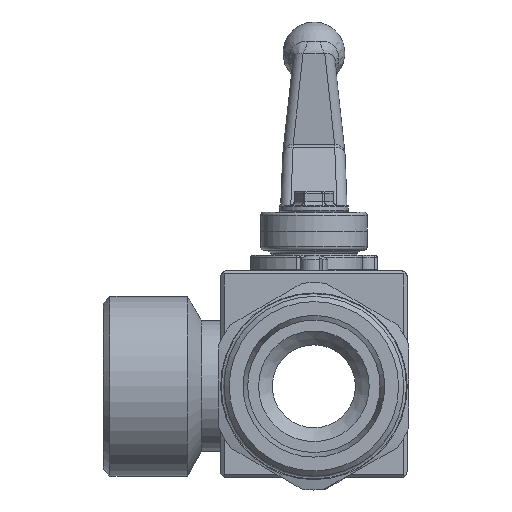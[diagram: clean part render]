
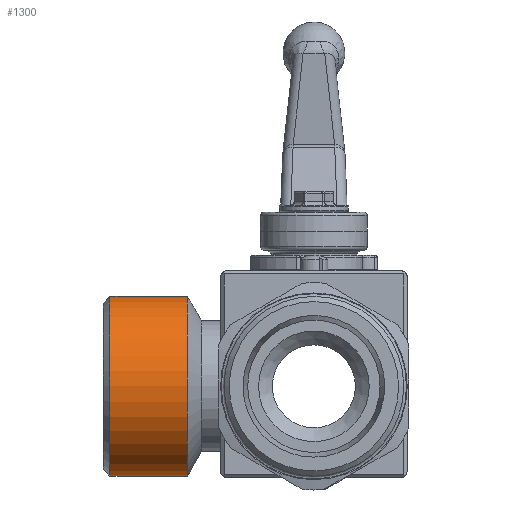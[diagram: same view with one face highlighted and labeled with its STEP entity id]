
A CAD part, front view. The second image highlights one B-rep face of the part: STEP entity #1300.
In plain terms, the highlighted cylindrical face has radius 26 mm (diameter 52 mm), a full revolution.
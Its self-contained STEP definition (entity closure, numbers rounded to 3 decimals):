
#1300 = ADVANCED_FACE( '', ( #2581, #2582 ), #2583, .T. );
#2581 = FACE_OUTER_BOUND( '', #4726, .T. );
#2582 = FACE_OUTER_BOUND( '', #4727, .T. );
#2583 = CYLINDRICAL_SURFACE( '', #4728, 26. );
#4726 = EDGE_LOOP( '', ( #7693 ) );
#4727 = EDGE_LOOP( '', ( #7694 ) );
#4728 = AXIS2_PLACEMENT_3D( '', #7695, #7696, #7697 );
#7693 = ORIENTED_EDGE( '', *, *, #8912, .T. );
#7694 = ORIENTED_EDGE( '', *, *, #8463, .F. );
#7695 = CARTESIAN_POINT( '', ( 0., -37., 0. ) );
#7696 = DIRECTION( '', ( 0., -1., 0. ) );
#7697 = DIRECTION( '', ( 0., 0., 1. ) );
#8463 = EDGE_CURVE( '', #10014, #10014, #10015, .F. );
#8912 = EDGE_CURVE( '', #10630, #10630, #10631, .F. );
#10014 = VERTEX_POINT( '', #12576 );
#10015 = CIRCLE( '', #12577, 26. );
#10630 = VERTEX_POINT( '', #13642 );
#10631 = CIRCLE( '', #13643, 26. );
#12576 = CARTESIAN_POINT( '', ( 0., -24.401, 26. ) );
#12577 = AXIS2_PLACEMENT_3D( '', #14828, #14829, #14830 );
#13642 = CARTESIAN_POINT( '', ( 0., -2., 26. ) );
#13643 = AXIS2_PLACEMENT_3D( '', #15439, #15440, #15441 );
#14828 = CARTESIAN_POINT( '', ( 0., -24.401, 0. ) );
#14829 = DIRECTION( '', ( 0., 1., 0. ) );
#14830 = DIRECTION( '', ( 0., 0., 1. ) );
#15439 = CARTESIAN_POINT( '', ( 0., -2., 0. ) );
#15440 = DIRECTION( '', ( 0., 1., 0. ) );
#15441 = DIRECTION( '', ( 0., 0., 1. ) );
